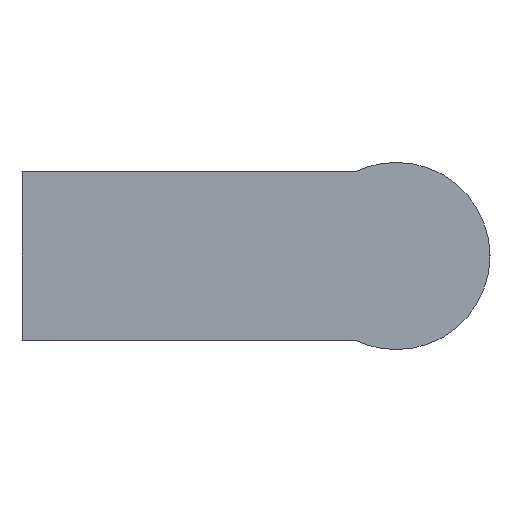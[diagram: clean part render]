
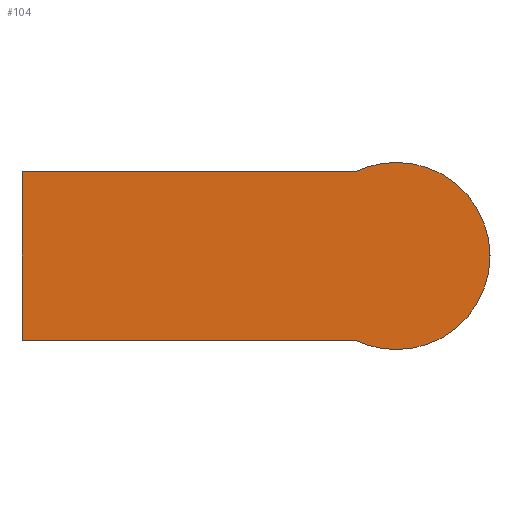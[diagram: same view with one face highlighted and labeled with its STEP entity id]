
A CAD part, left-side view. The second image highlights one B-rep face of the part: STEP entity #104.
In plain terms, the highlighted planar face has unit normal (-1, 0, 0).
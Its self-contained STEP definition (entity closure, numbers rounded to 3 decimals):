
#104 = ADVANCED_FACE( '', ( #166 ), #167, .F. );
#166 = FACE_OUTER_BOUND( '', #228, .T. );
#167 = PLANE( '', #229 );
#228 = EDGE_LOOP( '', ( #451, #452, #453, #454, #455, #456 ) );
#229 = AXIS2_PLACEMENT_3D( '', #457, #458, #459 );
#451 = ORIENTED_EDGE( '', *, *, #471, .F. );
#452 = ORIENTED_EDGE( '', *, *, #524, .F. );
#453 = ORIENTED_EDGE( '', *, *, #527, .F. );
#454 = ORIENTED_EDGE( '', *, *, #529, .F. );
#455 = ORIENTED_EDGE( '', *, *, #473, .F. );
#456 = ORIENTED_EDGE( '', *, *, #509, .F. );
#457 = CARTESIAN_POINT( '', ( -4., 0., 0. ) );
#458 = DIRECTION( '', ( 1., 0., 0. ) );
#459 = DIRECTION( '', ( 0., 0., -1. ) );
#471 = EDGE_CURVE( '', #551, #547, #553, .T. );
#473 = EDGE_CURVE( '', #554, #557, #558, .T. );
#509 = EDGE_CURVE( '', #547, #554, #615, .T. );
#524 = EDGE_CURVE( '', #634, #551, #636, .T. );
#527 = EDGE_CURVE( '', #639, #634, #641, .T. );
#529 = EDGE_CURVE( '', #557, #639, #643, .T. );
#547 = VERTEX_POINT( '', #665 );
#551 = VERTEX_POINT( '', #670 );
#553 = CIRCLE( '', #673, 6. );
#554 = VERTEX_POINT( '', #674 );
#557 = VERTEX_POINT( '', #678 );
#558 = CIRCLE( '', #679, 6. );
#615 = CIRCLE( '', #751, 6. );
#634 = VERTEX_POINT( '', #779 );
#636 = LINE( '', #782, #783 );
#639 = VERTEX_POINT( '', #787 );
#641 = LINE( '', #790, #791 );
#643 = LINE( '', #794, #795 );
#665 = CARTESIAN_POINT( '', ( -4., -24., 6. ) );
#670 = CARTESIAN_POINT( '', ( -4., -21.385, 5.4 ) );
#673 = AXIS2_PLACEMENT_3D( '', #817, #818, #819 );
#674 = CARTESIAN_POINT( '', ( -4., -24., -6. ) );
#678 = CARTESIAN_POINT( '', ( -4., -21.385, -5.4 ) );
#679 = AXIS2_PLACEMENT_3D( '', #821, #822, #823 );
#751 = AXIS2_PLACEMENT_3D( '', #899, #900, #901 );
#779 = CARTESIAN_POINT( '', ( -4., 0., 5.4 ) );
#782 = CARTESIAN_POINT( '', ( -4., 0., 5.4 ) );
#783 = VECTOR( '', #924, 1. );
#787 = CARTESIAN_POINT( '', ( -4., 0., -5.4 ) );
#790 = CARTESIAN_POINT( '', ( -4., 0., -5.4 ) );
#791 = VECTOR( '', #927, 1. );
#794 = CARTESIAN_POINT( '', ( -4., -21.385, -5.4 ) );
#795 = VECTOR( '', #929, 1. );
#817 = CARTESIAN_POINT( '', ( -4., -24., 0. ) );
#818 = DIRECTION( '', ( 1., 0., 0. ) );
#819 = DIRECTION( '', ( 0., 0., -1. ) );
#821 = CARTESIAN_POINT( '', ( -4., -24., 0. ) );
#822 = DIRECTION( '', ( 1., 0., 0. ) );
#823 = DIRECTION( '', ( 0., 0., -1. ) );
#899 = CARTESIAN_POINT( '', ( -4., -24., 0. ) );
#900 = DIRECTION( '', ( 1., 0., 0. ) );
#901 = DIRECTION( '', ( 0., 0., -1. ) );
#924 = DIRECTION( '', ( 0., -1., 0. ) );
#927 = DIRECTION( '', ( 0., 0., 1. ) );
#929 = DIRECTION( '', ( 0., 1., 0. ) );
